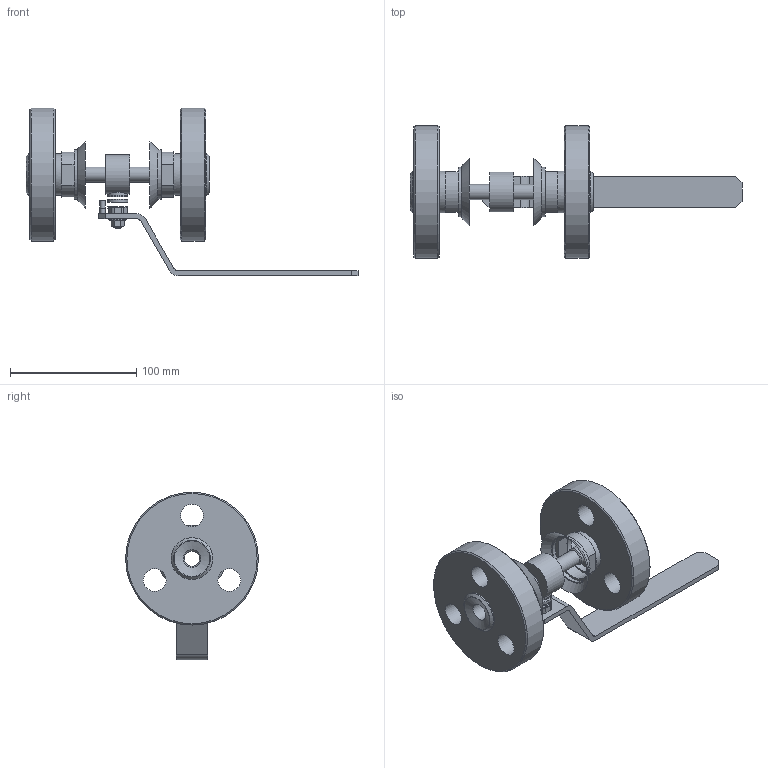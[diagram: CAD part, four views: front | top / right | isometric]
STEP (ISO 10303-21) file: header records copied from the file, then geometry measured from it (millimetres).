
FILE_DESCRIPTION(('STEP AP203'), '1');
FILE_NAME('ZARD 015.200.26.P.stp', '2013-12-05T09:03:24', ('User'), ('Computer'), 'ASCON STEP Converter 1.3', 'Kompas 3D', '');
FILE_SCHEMA(('CONFIG_CONTROL_DESIGN','SUPPORT_RESOURCE_SCHEMA'));
Length unit declared in the file: millimetre
Products named in the file (1): 65
Bounding box: 262.5 x 105 x 132.5 mm (x, y, z)
Volume: 479215.5 mm3; surface area: 88066.5 mm2
Topology: 1 solids, 3 shells, 181 faces, 419 edges, 255 vertices
Faces by surface type: plane 98, cylinder 53, cone 29, bspline 1
Full cylindrical faces by diameter (mm): 4 x2, 6 x2, 8.673 x1, 9 x1, 10 x2, 12 x2, 14 x2, 14.2 x1, 15.8 x1, 16 x2, 18 x6, 31.4 x1, 33 x4, 39 x2, 53 x1, 105 x2
Entity records: 6675 total; most frequent: CARTESIAN_POINT 2367, DIRECTION 921, ORIENTED_EDGE 836, EDGE_CURVE 418, AXIS2_PLACEMENT_3D 351, VERTEX_POINT 255, EDGE_LOOP 219, LINE 219
